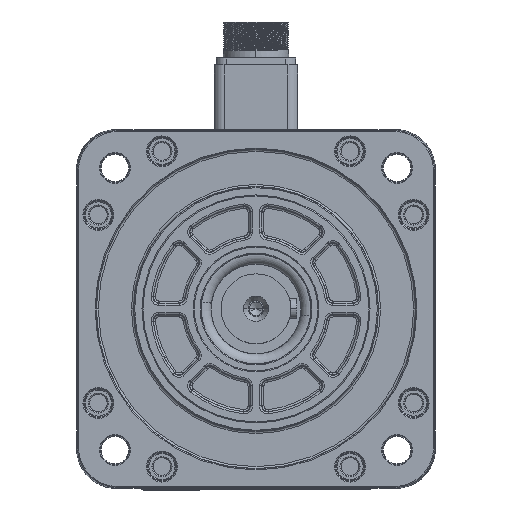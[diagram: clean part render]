
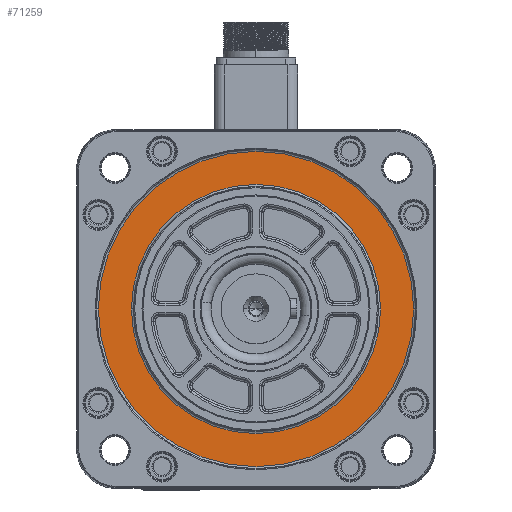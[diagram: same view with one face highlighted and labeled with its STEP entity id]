
A CAD part, top view. The second image highlights one B-rep face of the part: STEP entity #71259.
In plain terms, the highlighted planar face has unit normal (0, 0, 1).
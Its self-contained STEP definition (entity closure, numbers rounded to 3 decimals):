
#5450 = DIRECTION ( 'NONE',  ( 1., 0., 0. ) ) ;
#11265 = ORIENTED_EDGE ( 'NONE', *, *, #53769, .T. ) ;
#14070 = CIRCLE ( 'NONE', #17050, 62.466 ) ;
#17050 = AXIS2_PLACEMENT_3D ( 'NONE', #50163, #149512, #24649 ) ;
#17464 = DIRECTION ( 'NONE',  ( 1., 0., 0. ) ) ;
#19332 = CIRCLE ( 'NONE', #138676, 62.466 ) ;
#21364 = PLANE ( 'NONE',  #23394 ) ;
#22258 = DIRECTION ( 'NONE',  ( 1., 0., 0. ) ) ;
#23394 = AXIS2_PLACEMENT_3D ( 'NONE', #76942, #91552, #22258 ) ;
#24649 = DIRECTION ( 'NONE',  ( 1., 0., 0. ) ) ;
#33673 = DIRECTION ( 'NONE',  ( 0., 0., -1. ) ) ;
#35692 = EDGE_CURVE ( 'NONE', #152013, #48758, #61000, .T. ) ;
#41268 = EDGE_CURVE ( 'NONE', #107554, #127720, #19332, .T. ) ;
#44572 = DIRECTION ( 'NONE',  ( 1., 0., 0. ) ) ;
#48758 = VERTEX_POINT ( 'NONE', #113524 ) ;
#50163 = CARTESIAN_POINT ( 'NONE',  ( 0., 0., 15. ) ) ;
#51099 = EDGE_LOOP ( 'NONE', ( #70862, #89734 ) ) ;
#53769 = EDGE_CURVE ( 'NONE', #127720, #107554, #14070, .T. ) ;
#61000 = CIRCLE ( 'NONE', #107635, 79.034 ) ;
#63245 = FACE_BOUND ( 'NONE', #68604, .T. ) ;
#68604 = EDGE_LOOP ( 'NONE', ( #83779, #11265 ) ) ;
#70862 = ORIENTED_EDGE ( 'NONE', *, *, #35692, .T. ) ;
#71055 = DIRECTION ( 'NONE',  ( 0., 0., 1. ) ) ;
#71259 = ADVANCED_FACE ( 'NONE', ( #146236, #63245 ), #21364, .T. ) ;
#76942 = CARTESIAN_POINT ( 'NONE',  ( 0., 0., 15. ) ) ;
#81192 = AXIS2_PLACEMENT_3D ( 'NONE', #86740, #158708, #17464 ) ;
#83779 = ORIENTED_EDGE ( 'NONE', *, *, #41268, .T. ) ;
#86740 = CARTESIAN_POINT ( 'NONE',  ( 0., 0., 15. ) ) ;
#89734 = ORIENTED_EDGE ( 'NONE', *, *, #124602, .T. ) ;
#91552 = DIRECTION ( 'NONE',  ( 0., 0., 1. ) ) ;
#107554 = VERTEX_POINT ( 'NONE', #122967 ) ;
#107635 = AXIS2_PLACEMENT_3D ( 'NONE', #114762, #71055, #44572 ) ;
#113524 = CARTESIAN_POINT ( 'NONE',  ( -79.034, 0., 15. ) ) ;
#114762 = CARTESIAN_POINT ( 'NONE',  ( 0., 0., 15. ) ) ;
#120850 = CARTESIAN_POINT ( 'NONE',  ( 79.034, 0., 15. ) ) ;
#122967 = CARTESIAN_POINT ( 'NONE',  ( 62.466, 0., 15. ) ) ;
#124602 = EDGE_CURVE ( 'NONE', #48758, #152013, #160158, .T. ) ;
#127720 = VERTEX_POINT ( 'NONE', #179305 ) ;
#138676 = AXIS2_PLACEMENT_3D ( 'NONE', #145765, #33673, #5450 ) ;
#145765 = CARTESIAN_POINT ( 'NONE',  ( 0., 0., 15. ) ) ;
#146236 = FACE_OUTER_BOUND ( 'NONE', #51099, .T. ) ;
#149512 = DIRECTION ( 'NONE',  ( 0., 0., -1. ) ) ;
#152013 = VERTEX_POINT ( 'NONE', #120850 ) ;
#158708 = DIRECTION ( 'NONE',  ( 0., 0., 1. ) ) ;
#160158 = CIRCLE ( 'NONE', #81192, 79.034 ) ;
#179305 = CARTESIAN_POINT ( 'NONE',  ( -62.466, 0., 15. ) ) ;
